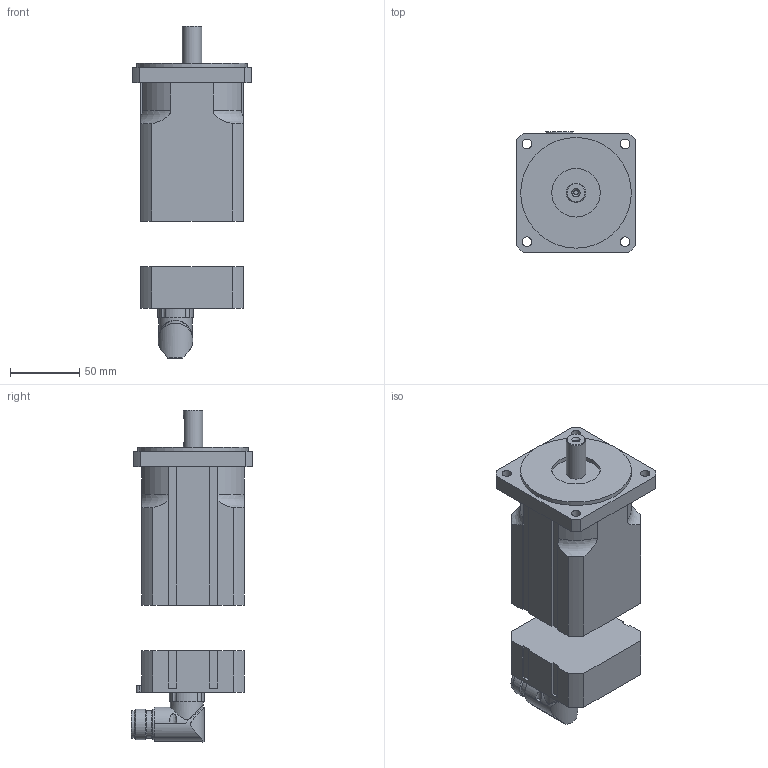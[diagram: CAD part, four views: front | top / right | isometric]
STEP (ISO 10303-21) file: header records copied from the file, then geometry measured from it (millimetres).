
FILE_DESCRIPTION(/* description */ ('Alibre Inc.'),/* implementation_level */ '2;1');
FILE_NAME(/* name */ 'export0',/* time_stamp */ '2011-01-14T14:28:55+01:00',/* author */ (''),/* organization */ (''),/* preprocessor_version */ 'ST-DEVELOPER v12',/* originating_system */ 'Alibre',/* authorisation */ '');
FILE_SCHEMA (('ALIBRE_SCHEMA','CONFIG_CONTROL_DESIGN'));
Length unit declared in the file: millimetre
Products named in the file (5): ID_1
Bounding box: 86 x 87.51 x 240 mm (x, y, z)
Volume: 795841.8 mm3; surface area: 80459.4 mm2
Topology: 4 solids, 4 shells, 156 faces, 404 edges, 267 vertices
Faces by surface type: plane 70, cylinder 52, bspline 26, cone 4, torus 4
Full cylindrical faces by diameter (mm): 2.7 x4, 14 x1, 20 x3, 22 x2, 24 x1, 35 x1, 80 x1
Entity records: 15427 total; most frequent: CARTESIAN_POINT 4449, DIRECTION 1582, ORIENTED_EDGE 1580, EDGE_CURVE 790, AXIS2_PLACEMENT_3D 596, VERTEX_POINT 558, VECTOR 528, LINE 480
